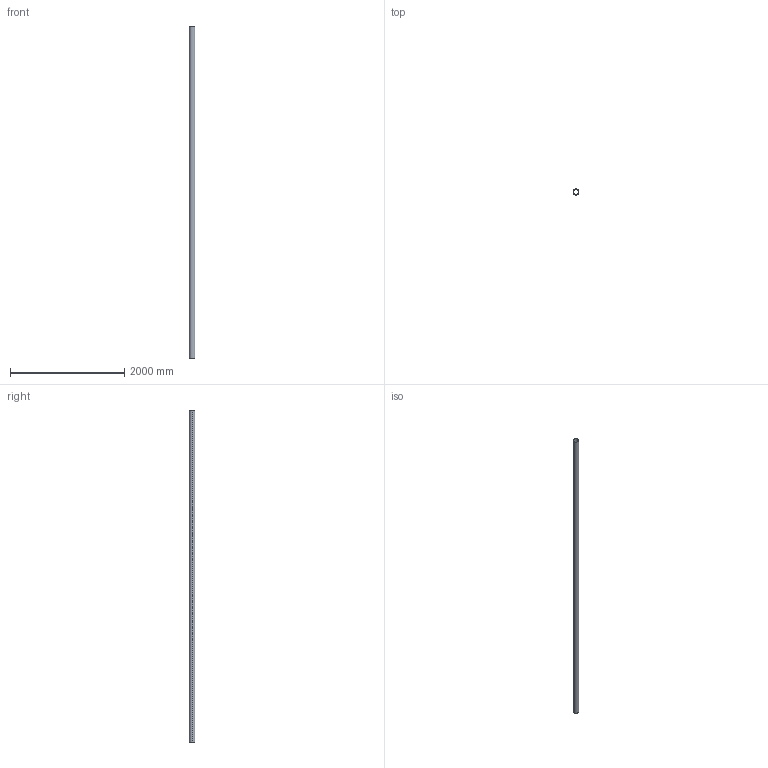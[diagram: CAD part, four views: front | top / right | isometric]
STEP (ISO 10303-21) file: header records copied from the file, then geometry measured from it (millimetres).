
FILE_DESCRIPTION((''),'2;1');
FILE_NAME('2009800000','2017-05-15T',('Administrator'),(''),'PRO/ENGINEER BY PARAMETRIC TECHNOLOGY CORPORATION, 2009360','PRO/ENGINEER BY PARAMETRIC TECHNOLOGY CORPORATION, 2009360','');
FILE_SCHEMA(('AUTOMOTIVE_DESIGN_CC2 { 1 2 10303 214 -1 1 5 2 }'));
Length unit declared in the file: millimetre
Products named in the file (1): 2009800000
Bounding box: 101.5 x 101.5 x 5800 mm (x, y, z)
Volume: 4509756.3 mm3; surface area: 3609360.1 mm2
Topology: 1 solids, 1 shells, 6 faces, 12 edges, 8 vertices
Faces by surface type: cylinder 4, plane 2
Entity records: 235 total; most frequent: DIRECTION 32, CARTESIAN_POINT 26, ORIENTED_EDGE 24, AXIS2_PLACEMENT_3D 14, PRESENTATION_STYLE_ASSIGNMENT 13, STYLED_ITEM 13, CURVE_STYLE 12, COLOUR_RGB 12
